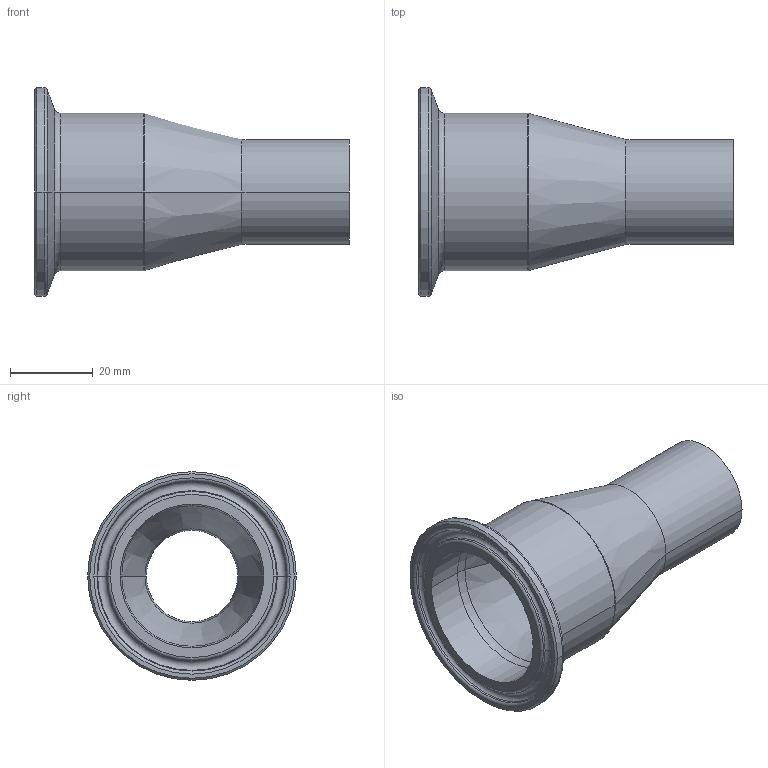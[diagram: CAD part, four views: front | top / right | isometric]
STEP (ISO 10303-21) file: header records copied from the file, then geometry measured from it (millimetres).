
FILE_DESCRIPTION (( 'STEP AP214' ), '1' );
FILE_NAME ('TE31SCW6L1.5x1.0-...STEP', '2016-05-29T10:51:17', ( 'eran' ), ( '' ), 'SwSTEP 2.0', 'SolidWorks 2016', '' );
FILE_SCHEMA (( 'AUTOMOTIVE_DESIGN' ));
Length unit declared in the file: millimetre
Products named in the file (1): TE31SCW6L1.5x1.0-..
Bounding box: 76.2 x 50.5 x 50.5 mm (x, y, z)
Volume: 25823.5 mm3; surface area: 15863.5 mm2
Topology: 1 solids, 1 shells, 41 faces, 82 edges, 44 vertices
Faces by surface type: torus 16, cone 12, cylinder 10, plane 3
Entity records: 1098 total; most frequent: DIRECTION 226, CARTESIAN_POINT 168, ORIENTED_EDGE 164, AXIS2_PLACEMENT_3D 102, EDGE_CURVE 82, CIRCLE 60, EDGE_LOOP 44, VERTEX_POINT 44
